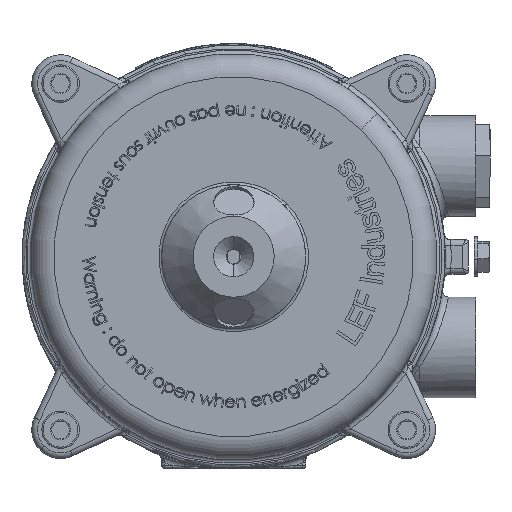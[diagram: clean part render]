
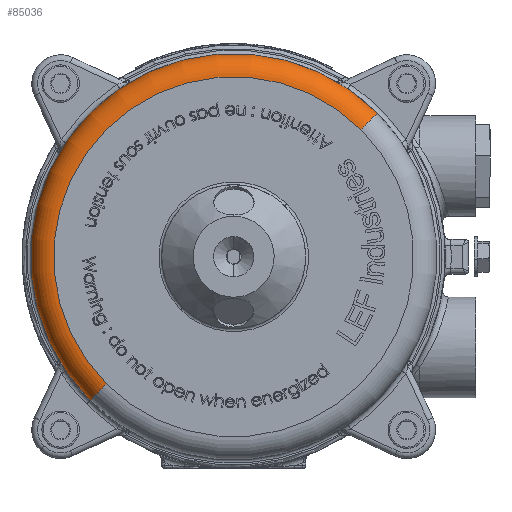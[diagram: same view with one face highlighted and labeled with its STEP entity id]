
A CAD part, front view. The second image highlights one B-rep face of the part: STEP entity #85036.
In plain terms, the highlighted toroidal (fillet/blend) face has major radius 62.5 mm and minor radius 8 mm.
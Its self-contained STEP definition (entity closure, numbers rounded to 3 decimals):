
#3244 = EDGE_CURVE ( 'NONE', #72983, #72238, #34342, .T. ) ;
#9524 = ORIENTED_EDGE ( 'NONE', *, *, #60392, .T. ) ;
#11120 = CIRCLE ( 'NONE', #12329, 8. ) ;
#12329 = AXIS2_PLACEMENT_3D ( 'NONE', #12761, #54585, #40059 ) ;
#12761 = CARTESIAN_POINT ( 'NONE',  ( -44.194, -13., -44.194 ) ) ;
#13847 = CARTESIAN_POINT ( 'NONE',  ( 0., -13., 0. ) ) ;
#14140 = DIRECTION ( 'NONE',  ( 0., -1., 0. ) ) ;
#15112 = FACE_OUTER_BOUND ( 'NONE', #32165, .T. ) ;
#20049 = AXIS2_PLACEMENT_3D ( 'NONE', #46300, #65751, #38736 ) ;
#20240 = VERTEX_POINT ( 'NONE', #35180 ) ;
#20510 = CARTESIAN_POINT ( 'NONE',  ( 49.851, -13., 49.851 ) ) ;
#27963 = CARTESIAN_POINT ( 'NONE',  ( -49.851, -13., -49.851 ) ) ;
#31327 = CIRCLE ( 'NONE', #20049, 62.5 ) ;
#32165 = EDGE_LOOP ( 'NONE', ( #61738, #59242, #9524, #69055 ) ) ;
#33857 = AXIS2_PLACEMENT_3D ( 'NONE', #13847, #14140, #76317 ) ;
#34342 = CIRCLE ( 'NONE', #33857, 70.5 ) ;
#35180 = CARTESIAN_POINT ( 'NONE',  ( -44.194, -21., -44.194 ) ) ;
#38523 = DIRECTION ( 'NONE',  ( -0.707, 0., -0.707 ) ) ;
#38736 = DIRECTION ( 'NONE',  ( -0.707, 0., -0.707 ) ) ;
#38887 = VERTEX_POINT ( 'NONE', #76486 ) ;
#40059 = DIRECTION ( 'NONE',  ( 0.707, 0., 0.707 ) ) ;
#42643 = EDGE_CURVE ( 'NONE', #72983, #38887, #50273, .T. ) ;
#46300 = CARTESIAN_POINT ( 'NONE',  ( 0., -21., 0. ) ) ;
#49995 = AXIS2_PLACEMENT_3D ( 'NONE', #58225, #80041, #38523 ) ;
#50273 = CIRCLE ( 'NONE', #53715, 8. ) ;
#53715 = AXIS2_PLACEMENT_3D ( 'NONE', #88700, #62332, #68396 ) ;
#54585 = DIRECTION ( 'NONE',  ( -0.707, 0., 0.707 ) ) ;
#58225 = CARTESIAN_POINT ( 'NONE',  ( 0., -13., 0. ) ) ;
#59242 = ORIENTED_EDGE ( 'NONE', *, *, #3244, .T. ) ;
#60392 = EDGE_CURVE ( 'NONE', #72238, #20240, #11120, .T. ) ;
#61738 = ORIENTED_EDGE ( 'NONE', *, *, #42643, .F. ) ;
#61935 = EDGE_CURVE ( 'NONE', #38887, #20240, #31327, .T. ) ;
#62332 = DIRECTION ( 'NONE',  ( 0.707, 0., -0.707 ) ) ;
#65751 = DIRECTION ( 'NONE',  ( 0., -1., 0. ) ) ;
#68396 = DIRECTION ( 'NONE',  ( -0.707, 0., -0.707 ) ) ;
#69055 = ORIENTED_EDGE ( 'NONE', *, *, #61935, .F. ) ;
#72238 = VERTEX_POINT ( 'NONE', #27963 ) ;
#72983 = VERTEX_POINT ( 'NONE', #20510 ) ;
#76317 = DIRECTION ( 'NONE',  ( -0.707, 0., -0.707 ) ) ;
#76486 = CARTESIAN_POINT ( 'NONE',  ( 44.194, -21., 44.194 ) ) ;
#80041 = DIRECTION ( 'NONE',  ( 0., -1., 0. ) ) ;
#82412 = TOROIDAL_SURFACE ( 'NONE', #49995, 62.5, 8. ) ;
#85036 = ADVANCED_FACE ( 'NONE', ( #15112 ), #82412, .T. ) ;
#88700 = CARTESIAN_POINT ( 'NONE',  ( 44.194, -13., 44.194 ) ) ;
